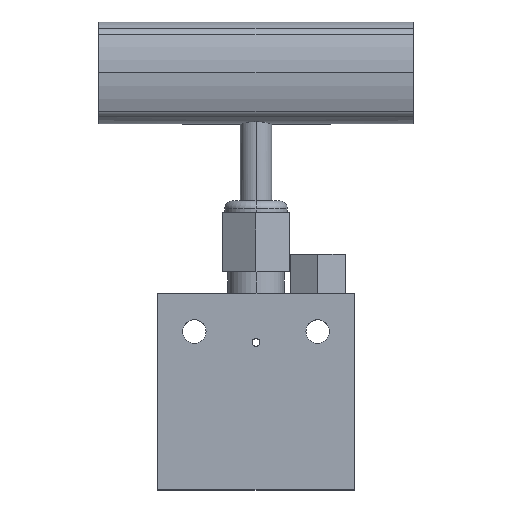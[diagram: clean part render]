
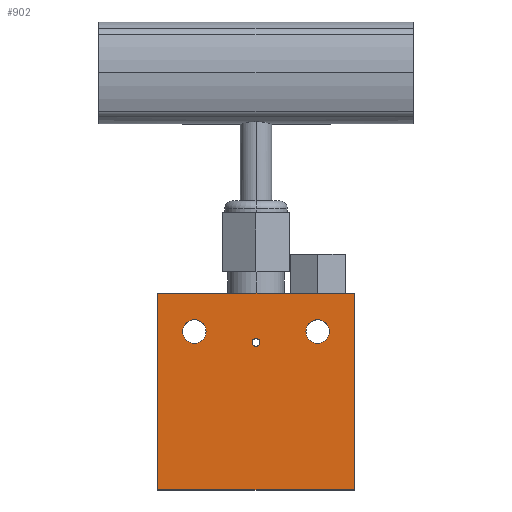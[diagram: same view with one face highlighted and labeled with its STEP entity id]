
A CAD part, top view. The second image highlights one B-rep face of the part: STEP entity #902.
In plain terms, the highlighted planar face has unit normal (0, 0, 1).
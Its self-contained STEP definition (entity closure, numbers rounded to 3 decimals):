
#5 = CARTESIAN_POINT ( 'NONE',  ( -25., 31., 10. ) ) ;
#6 = CARTESIAN_POINT ( 'NONE',  ( 25., 31., 10. ) ) ;
#20 = CARTESIAN_POINT ( 'NONE',  ( -25., 31., 10. ) ) ;
#31 = CARTESIAN_POINT ( 'NONE',  ( 15.7, 21.3, 10. ) ) ;
#53 = DIRECTION ( 'NONE',  ( 1., 0., 0. ) ) ;
#63 = AXIS2_PLACEMENT_3D ( 'NONE', #85, #1236, #2092 ) ;
#85 = CARTESIAN_POINT ( 'NONE',  ( 0., 18.5, 10. ) ) ;
#108 = DIRECTION ( 'NONE',  ( 1., 0., 0. ) ) ;
#111 = AXIS2_PLACEMENT_3D ( 'NONE', #1944, #2440, #165 ) ;
#112 = VECTOR ( 'NONE', #53, 1000. ) ;
#154 = FACE_BOUND ( 'NONE', #1692, .T. ) ;
#165 = DIRECTION ( 'NONE',  ( 1., 0., 0. ) ) ;
#171 = FACE_BOUND ( 'NONE', #2146, .T. ) ;
#185 = CARTESIAN_POINT ( 'NONE',  ( 15.7, 21.3, 10. ) ) ;
#245 = CARTESIAN_POINT ( 'NONE',  ( 18.7, 21.3, 10. ) ) ;
#277 = ORIENTED_EDGE ( 'NONE', *, *, #2764, .T. ) ;
#350 = VECTOR ( 'NONE', #2702, 1000. ) ;
#357 = EDGE_CURVE ( 'NONE', #2587, #488, #1388, .T. ) ;
#373 = ORIENTED_EDGE ( 'NONE', *, *, #2096, .T. ) ;
#395 = DIRECTION ( 'NONE',  ( 1., 0., 0. ) ) ;
#441 = AXIS2_PLACEMENT_3D ( 'NONE', #2148, #1506, #108 ) ;
#452 = DIRECTION ( 'NONE',  ( -1., 0., 0. ) ) ;
#488 = VERTEX_POINT ( 'NONE', #2115 ) ;
#494 = CIRCLE ( 'NONE', #63, 1. ) ;
#576 = CARTESIAN_POINT ( 'NONE',  ( -18.7, 21.3, 10. ) ) ;
#586 = CIRCLE ( 'NONE', #2230, 3. ) ;
#593 = EDGE_CURVE ( 'NONE', #2359, #2227, #2708, .T. ) ;
#615 = DIRECTION ( 'NONE',  ( -1., 0., 0. ) ) ;
#710 = VERTEX_POINT ( 'NONE', #1308 ) ;
#739 = EDGE_CURVE ( 'NONE', #2501, #1132, #586, .T. ) ;
#793 = FACE_OUTER_BOUND ( 'NONE', #2301, .T. ) ;
#824 = CIRCLE ( 'NONE', #2083, 3. ) ;
#835 = ORIENTED_EDGE ( 'NONE', *, *, #2396, .F. ) ;
#857 = VECTOR ( 'NONE', #908, 1000. ) ;
#902 = ADVANCED_FACE ( 'NONE', ( #1059, #154, #171, #793 ), #1043, .T. ) ;
#908 = DIRECTION ( 'NONE',  ( 0., 1., 0. ) ) ;
#930 = DIRECTION ( 'NONE',  ( 0., 0., 1. ) ) ;
#966 = ORIENTED_EDGE ( 'NONE', *, *, #739, .F. ) ;
#983 = EDGE_CURVE ( 'NONE', #2828, #2587, #2036, .T. ) ;
#988 = DIRECTION ( 'NONE',  ( 1., 0., 0. ) ) ;
#1043 = PLANE ( 'NONE',  #441 ) ;
#1056 = VERTEX_POINT ( 'NONE', #1112 ) ;
#1059 = FACE_BOUND ( 'NONE', #2754, .T. ) ;
#1065 = DIRECTION ( 'NONE',  ( 0., 0., 1. ) ) ;
#1089 = DIRECTION ( 'NONE',  ( 0., 0., 1. ) ) ;
#1096 = AXIS2_PLACEMENT_3D ( 'NONE', #1915, #1679, #988 ) ;
#1112 = CARTESIAN_POINT ( 'NONE',  ( 1., 18.5, 10. ) ) ;
#1123 = CARTESIAN_POINT ( 'NONE',  ( 12.7, 21.3, 10. ) ) ;
#1132 = VERTEX_POINT ( 'NONE', #1190 ) ;
#1190 = CARTESIAN_POINT ( 'NONE',  ( -12.7, 21.3, 10. ) ) ;
#1236 = DIRECTION ( 'NONE',  ( 0., 0., 1. ) ) ;
#1246 = VECTOR ( 'NONE', #2056, 1000. ) ;
#1308 = CARTESIAN_POINT ( 'NONE',  ( 25., 31., 10. ) ) ;
#1320 = CARTESIAN_POINT ( 'NONE',  ( -25., -19., 10. ) ) ;
#1369 = CARTESIAN_POINT ( 'NONE',  ( -25., -19., 10. ) ) ;
#1388 = LINE ( 'NONE', #1369, #112 ) ;
#1504 = EDGE_CURVE ( 'NONE', #2227, #2359, #824, .T. ) ;
#1506 = DIRECTION ( 'NONE',  ( 0., 0., 1. ) ) ;
#1570 = CIRCLE ( 'NONE', #111, 1. ) ;
#1629 = ORIENTED_EDGE ( 'NONE', *, *, #593, .F. ) ;
#1679 = DIRECTION ( 'NONE',  ( 0., 0., 1. ) ) ;
#1692 = EDGE_LOOP ( 'NONE', ( #835, #966 ) ) ;
#1766 = AXIS2_PLACEMENT_3D ( 'NONE', #185, #1089, #615 ) ;
#1879 = EDGE_CURVE ( 'NONE', #1056, #1989, #494, .T. ) ;
#1915 = CARTESIAN_POINT ( 'NONE',  ( -15.7, 21.3, 10. ) ) ;
#1944 = CARTESIAN_POINT ( 'NONE',  ( 0., 18.5, 10. ) ) ;
#1989 = VERTEX_POINT ( 'NONE', #2861 ) ;
#2030 = LINE ( 'NONE', #6, #857 ) ;
#2036 = LINE ( 'NONE', #2433, #350 ) ;
#2056 = DIRECTION ( 'NONE',  ( -1., 0., 0. ) ) ;
#2068 = ORIENTED_EDGE ( 'NONE', *, *, #983, .T. ) ;
#2083 = AXIS2_PLACEMENT_3D ( 'NONE', #31, #930, #452 ) ;
#2092 = DIRECTION ( 'NONE',  ( 1., 0., 0. ) ) ;
#2096 = EDGE_CURVE ( 'NONE', #488, #710, #2030, .T. ) ;
#2115 = CARTESIAN_POINT ( 'NONE',  ( 25., -19., 10. ) ) ;
#2146 = EDGE_LOOP ( 'NONE', ( #1629, #2284 ) ) ;
#2148 = CARTESIAN_POINT ( 'NONE',  ( 0., 0., 10. ) ) ;
#2163 = ORIENTED_EDGE ( 'NONE', *, *, #2636, .F. ) ;
#2227 = VERTEX_POINT ( 'NONE', #1123 ) ;
#2230 = AXIS2_PLACEMENT_3D ( 'NONE', #2448, #1065, #395 ) ;
#2280 = LINE ( 'NONE', #5, #1246 ) ;
#2284 = ORIENTED_EDGE ( 'NONE', *, *, #1504, .F. ) ;
#2301 = EDGE_LOOP ( 'NONE', ( #2068, #2402, #373, #277 ) ) ;
#2315 = CIRCLE ( 'NONE', #1096, 3. ) ;
#2359 = VERTEX_POINT ( 'NONE', #245 ) ;
#2396 = EDGE_CURVE ( 'NONE', #1132, #2501, #2315, .T. ) ;
#2402 = ORIENTED_EDGE ( 'NONE', *, *, #357, .T. ) ;
#2433 = CARTESIAN_POINT ( 'NONE',  ( -25., 31., 10. ) ) ;
#2440 = DIRECTION ( 'NONE',  ( 0., 0., 1. ) ) ;
#2448 = CARTESIAN_POINT ( 'NONE',  ( -15.7, 21.3, 10. ) ) ;
#2501 = VERTEX_POINT ( 'NONE', #576 ) ;
#2587 = VERTEX_POINT ( 'NONE', #1320 ) ;
#2636 = EDGE_CURVE ( 'NONE', #1989, #1056, #1570, .T. ) ;
#2702 = DIRECTION ( 'NONE',  ( 0., -1., 0. ) ) ;
#2708 = CIRCLE ( 'NONE', #1766, 3. ) ;
#2721 = ORIENTED_EDGE ( 'NONE', *, *, #1879, .F. ) ;
#2754 = EDGE_LOOP ( 'NONE', ( #2721, #2163 ) ) ;
#2764 = EDGE_CURVE ( 'NONE', #710, #2828, #2280, .T. ) ;
#2828 = VERTEX_POINT ( 'NONE', #20 ) ;
#2861 = CARTESIAN_POINT ( 'NONE',  ( -1., 18.5, 10. ) ) ;
